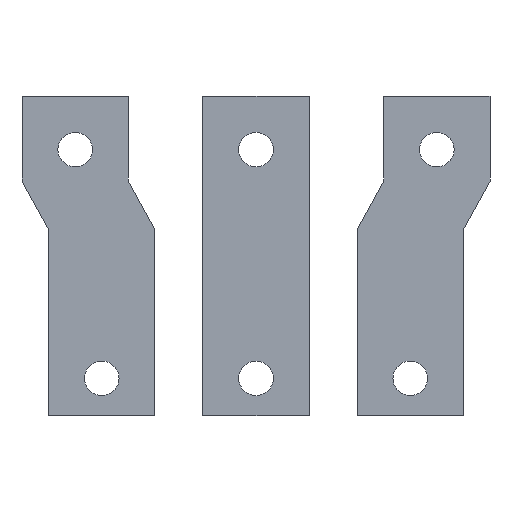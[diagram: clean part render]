
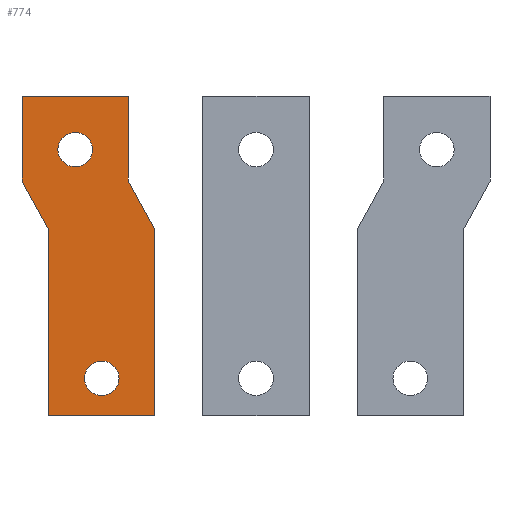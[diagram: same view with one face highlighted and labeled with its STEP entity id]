
A CAD part, front view. The second image highlights one B-rep face of the part: STEP entity #774.
In plain terms, the highlighted planar face has unit normal (0, -1, 0).
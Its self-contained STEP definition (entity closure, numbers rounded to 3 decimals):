
#11 = EDGE_CURVE ( 'NONE', #752, #240, #666, .T. ) ;
#24 = DIRECTION ( 'NONE',  ( 0., -1., 0. ) ) ;
#27 = CARTESIAN_POINT ( 'NONE',  ( -30., 0., 18.2 ) ) ;
#34 = DIRECTION ( 'NONE',  ( 0., 0., -1. ) ) ;
#43 = CARTESIAN_POINT ( 'NONE',  ( 10., 0., 18.2 ) ) ;
#44 = EDGE_CURVE ( 'NONE', #757, #910, #567, .T. ) ;
#50 = CARTESIAN_POINT ( 'NONE',  ( -30., 0., 18.2 ) ) ;
#67 = ORIENTED_EDGE ( 'NONE', *, *, #422, .F. ) ;
#70 = VERTEX_POINT ( 'NONE', #795 ) ;
#94 = FACE_BOUND ( 'NONE', #216, .T. ) ;
#101 = CARTESIAN_POINT ( 'NONE',  ( 20., 0., -70. ) ) ;
#113 = DIRECTION ( 'NONE',  ( 0., 0., 1. ) ) ;
#116 = DIRECTION ( 'NONE',  ( -1., 0., 0. ) ) ;
#117 = LINE ( 'NONE', #43, #972 ) ;
#122 = EDGE_CURVE ( 'NONE', #910, #226, #176, .T. ) ;
#124 = EDGE_CURVE ( 'NONE', #520, #985, #290, .T. ) ;
#126 = ORIENTED_EDGE ( 'NONE', *, *, #970, .F. ) ;
#132 = AXIS2_PLACEMENT_3D ( 'NONE', #749, #24, #265 ) ;
#143 = CARTESIAN_POINT ( 'NONE',  ( 10., 0., 18.2 ) ) ;
#145 = EDGE_CURVE ( 'NONE', #640, #70, #313, .T. ) ;
#147 = EDGE_LOOP ( 'NONE', ( #452, #764 ) ) ;
#155 = DIRECTION ( 'NONE',  ( 1., 0., 0. ) ) ;
#161 = CIRCLE ( 'NONE', #239, 6.5 ) ;
#165 = FACE_OUTER_BOUND ( 'NONE', #367, .T. ) ;
#167 = DIRECTION ( 'NONE',  ( 0., -1., 0. ) ) ;
#176 = LINE ( 'NONE', #872, #608 ) ;
#180 = DIRECTION ( 'NONE',  ( -1., 0., 0. ) ) ;
#204 = ORIENTED_EDGE ( 'NONE', *, *, #124, .F. ) ;
#216 = EDGE_LOOP ( 'NONE', ( #204, #126 ) ) ;
#226 = VERTEX_POINT ( 'NONE', #334 ) ;
#227 = CARTESIAN_POINT ( 'NONE',  ( -6.5, 0., -56. ) ) ;
#232 = DIRECTION ( 'NONE',  ( 0., 1., 0. ) ) ;
#233 = CARTESIAN_POINT ( 'NONE',  ( -10., 0., 30. ) ) ;
#236 = EDGE_CURVE ( 'NONE', #434, #757, #503, .T. ) ;
#239 = AXIS2_PLACEMENT_3D ( 'NONE', #777, #703, #312 ) ;
#240 = VERTEX_POINT ( 'NONE', #423 ) ;
#242 = CARTESIAN_POINT ( 'NONE',  ( -20., 0., -70. ) ) ;
#254 = DIRECTION ( 'NONE',  ( 1., 0., 0. ) ) ;
#261 = EDGE_CURVE ( 'NONE', #226, #517, #538, .T. ) ;
#265 = DIRECTION ( 'NONE',  ( 1., 0., 0. ) ) ;
#273 = ORIENTED_EDGE ( 'NONE', *, *, #261, .F. ) ;
#290 = CIRCLE ( 'NONE', #864, 6.5 ) ;
#312 = DIRECTION ( 'NONE',  ( -1., 0., 0. ) ) ;
#313 = CIRCLE ( 'NONE', #886, 6.5 ) ;
#325 = VECTOR ( 'NONE', #575, 1000. ) ;
#333 = CARTESIAN_POINT ( 'NONE',  ( 6.5, 0., -56. ) ) ;
#334 = CARTESIAN_POINT ( 'NONE',  ( 10., 0., 50. ) ) ;
#337 = CARTESIAN_POINT ( 'NONE',  ( -20., 0., -70. ) ) ;
#367 = EDGE_LOOP ( 'NONE', ( #620, #691, #67, #273, #995, #371, #686, #934, #986 ) ) ;
#371 = ORIENTED_EDGE ( 'NONE', *, *, #44, .F. ) ;
#396 = FACE_BOUND ( 'NONE', #147, .T. ) ;
#422 = EDGE_CURVE ( 'NONE', #517, #752, #117, .T. ) ;
#423 = CARTESIAN_POINT ( 'NONE',  ( 20., 0., -70. ) ) ;
#424 = DIRECTION ( 'NONE',  ( 1., 0., 0. ) ) ;
#434 = VERTEX_POINT ( 'NONE', #50 ) ;
#452 = ORIENTED_EDGE ( 'NONE', *, *, #549, .F. ) ;
#472 = DIRECTION ( 'NONE',  ( 0., -1., 0. ) ) ;
#476 = CARTESIAN_POINT ( 'NONE',  ( -3.5, 0., 30. ) ) ;
#481 = CARTESIAN_POINT ( 'NONE',  ( -30., 0., 50. ) ) ;
#486 = CARTESIAN_POINT ( 'NONE',  ( 20., 0., 0. ) ) ;
#503 = LINE ( 'NONE', #27, #622 ) ;
#517 = VERTEX_POINT ( 'NONE', #143 ) ;
#520 = VERTEX_POINT ( 'NONE', #227 ) ;
#531 = CIRCLE ( 'NONE', #132, 6.5 ) ;
#538 = LINE ( 'NONE', #755, #940 ) ;
#549 = EDGE_CURVE ( 'NONE', #70, #640, #161, .T. ) ;
#567 = LINE ( 'NONE', #807, #734 ) ;
#575 = DIRECTION ( 'NONE',  ( 0., 0., 1. ) ) ;
#577 = DIRECTION ( 'NONE',  ( 1., 0., 0. ) ) ;
#587 = LINE ( 'NONE', #101, #839 ) ;
#608 = VECTOR ( 'NONE', #424, 1000. ) ;
#620 = ORIENTED_EDGE ( 'NONE', *, *, #947, .F. ) ;
#622 = VECTOR ( 'NONE', #113, 1000. ) ;
#632 = VERTEX_POINT ( 'NONE', #242 ) ;
#640 = VERTEX_POINT ( 'NONE', #476 ) ;
#647 = CARTESIAN_POINT ( 'NONE',  ( -20., 0., 0. ) ) ;
#666 = LINE ( 'NONE', #486, #991 ) ;
#668 = LINE ( 'NONE', #337, #325 ) ;
#673 = CARTESIAN_POINT ( 'NONE',  ( -20., 0., 0. ) ) ;
#685 = DIRECTION ( 'NONE',  ( 0.482, 0., -0.876 ) ) ;
#686 = ORIENTED_EDGE ( 'NONE', *, *, #236, .F. ) ;
#691 = ORIENTED_EDGE ( 'NONE', *, *, #11, .F. ) ;
#703 = DIRECTION ( 'NONE',  ( 0., -1., 0. ) ) ;
#717 = DIRECTION ( 'NONE',  ( -0.482, 0., 0.876 ) ) ;
#724 = CARTESIAN_POINT ( 'NONE',  ( 20., 0., 0. ) ) ;
#734 = VECTOR ( 'NONE', #577, 1000. ) ;
#739 = AXIS2_PLACEMENT_3D ( 'NONE', #935, #232, #254 ) ;
#749 = CARTESIAN_POINT ( 'NONE',  ( 0., 0., -56. ) ) ;
#752 = VERTEX_POINT ( 'NONE', #724 ) ;
#755 = CARTESIAN_POINT ( 'NONE',  ( 10., 0., 50. ) ) ;
#757 = VERTEX_POINT ( 'NONE', #481 ) ;
#764 = ORIENTED_EDGE ( 'NONE', *, *, #145, .F. ) ;
#774 = ADVANCED_FACE ( 'NONE', ( #94, #396, #165 ), #798, .F. ) ;
#777 = CARTESIAN_POINT ( 'NONE',  ( -10., 0., 30. ) ) ;
#790 = EDGE_CURVE ( 'NONE', #925, #434, #873, .T. ) ;
#795 = CARTESIAN_POINT ( 'NONE',  ( -16.5, 0., 30. ) ) ;
#798 = PLANE ( 'NONE',  #739 ) ;
#807 = CARTESIAN_POINT ( 'NONE',  ( -30., 0., 50. ) ) ;
#839 = VECTOR ( 'NONE', #116, 1000. ) ;
#845 = DIRECTION ( 'NONE',  ( 0., 0., -1. ) ) ;
#853 = EDGE_CURVE ( 'NONE', #632, #925, #668, .T. ) ;
#864 = AXIS2_PLACEMENT_3D ( 'NONE', #959, #167, #180 ) ;
#872 = CARTESIAN_POINT ( 'NONE',  ( -10., 0., 50. ) ) ;
#873 = LINE ( 'NONE', #647, #882 ) ;
#882 = VECTOR ( 'NONE', #717, 1000. ) ;
#886 = AXIS2_PLACEMENT_3D ( 'NONE', #233, #472, #155 ) ;
#910 = VERTEX_POINT ( 'NONE', #965 ) ;
#925 = VERTEX_POINT ( 'NONE', #673 ) ;
#934 = ORIENTED_EDGE ( 'NONE', *, *, #790, .F. ) ;
#935 = CARTESIAN_POINT ( 'NONE',  ( 0., 0., 0. ) ) ;
#940 = VECTOR ( 'NONE', #845, 1000. ) ;
#947 = EDGE_CURVE ( 'NONE', #240, #632, #587, .T. ) ;
#959 = CARTESIAN_POINT ( 'NONE',  ( 0., 0., -56. ) ) ;
#965 = CARTESIAN_POINT ( 'NONE',  ( -10., 0., 50. ) ) ;
#970 = EDGE_CURVE ( 'NONE', #985, #520, #531, .T. ) ;
#972 = VECTOR ( 'NONE', #685, 1000. ) ;
#985 = VERTEX_POINT ( 'NONE', #333 ) ;
#986 = ORIENTED_EDGE ( 'NONE', *, *, #853, .F. ) ;
#991 = VECTOR ( 'NONE', #34, 1000. ) ;
#995 = ORIENTED_EDGE ( 'NONE', *, *, #122, .F. ) ;
